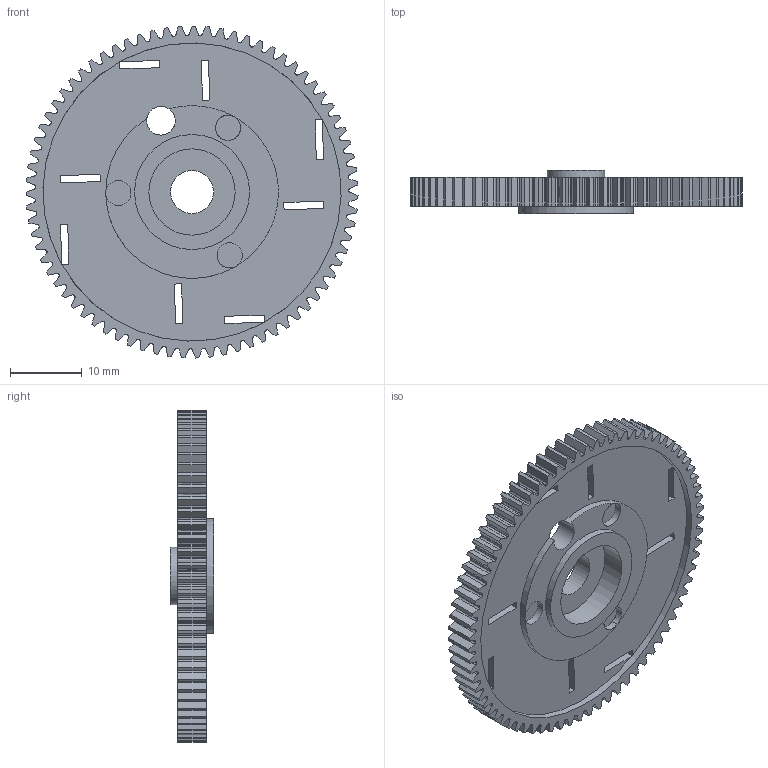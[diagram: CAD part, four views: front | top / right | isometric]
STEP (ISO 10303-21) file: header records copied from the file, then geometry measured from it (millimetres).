
FILE_DESCRIPTION(/* description */ ('Spur Gear; Module: 0.6; Num Teeth: 75; Pressure Angle: 20.0; Backlash: 0.00 mm'),/* implementation_level */ '2;1');
FILE_NAME(/* name */ 'ts200r-large-actuator-gear.step',/* time_stamp */ '2026-06-04T15:53:48-07:00',/* author */ (''),/* organization */ (''),/* preprocessor_version */ 'ST-DEVELOPER v20.1',/* originating_system */ 'Autodesk Translation Framework v15.8.0.0',/* authorisation */ '');
FILE_SCHEMA (('AUTOMOTIVE_DESIGN { 1 0 10303 214 3 1 1 }'));
Products named in the file (1): ts200r-large-actuator-gear
Bounding box: 46.19 x 6 x 46.19 mm (x, y, z)
Volume: 3797.3 mm3; surface area: 4963.8 mm2
Topology: 1 solids, 1 shells, 509 faces, 1505 edges, 992 vertices
Faces by surface type: bspline 300, cylinder 166, plane 43
Full cylindrical faces by diameter (mm): 3.5 x1, 4 x1, 6 x1, 8 x1, 12 x1, 16 x1, 41.5 x2
Entity records: 54665 total; most frequent: CARTESIAN_POINT 43807, ORIENTED_EDGE 3010, EDGE_CURVE 1505, DIRECTION 1367, VERTEX_POINT 992, B_SPLINE_CURVE_WITH_KNOTS 600, AXIS2_PLACEMENT_3D 552, EDGE_LOOP 526
